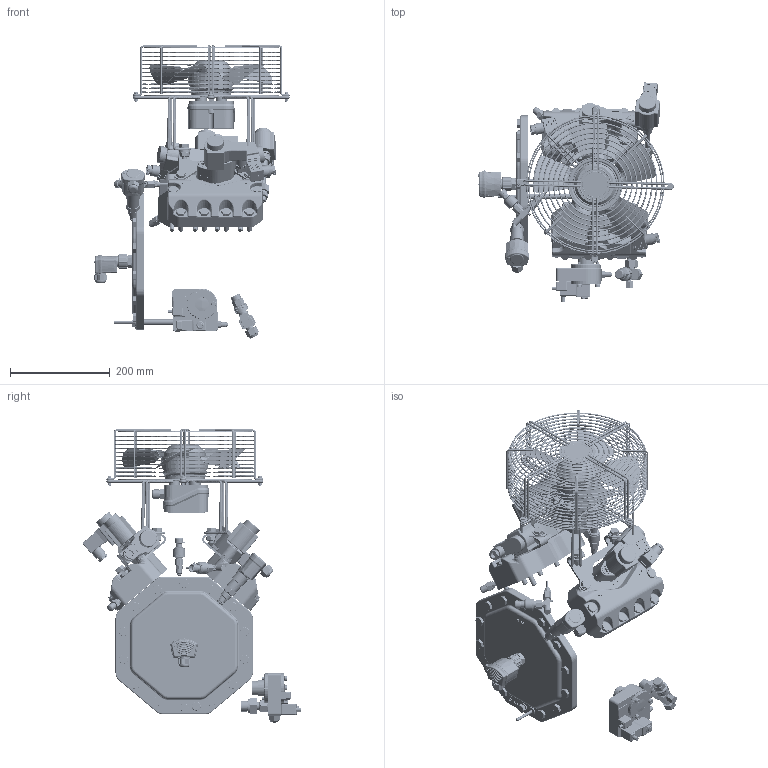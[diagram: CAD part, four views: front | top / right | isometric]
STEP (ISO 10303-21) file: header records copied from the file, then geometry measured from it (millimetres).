
FILE_DESCRIPTION(/* description */ (''),/* implementation_level */ '2;1');
FILE_NAME(/* name */ '4VE-S-4TE-S-4PE-S-4NE-S-OPT.stp',/* time_stamp */ '2023-12-08T15:39:04+01:00',/* author */ (''),/* organization */ (''),/* preprocessor_version */ 'ST-DEVELOPER v19.3',/* originating_system */ 'SIEMENS PLM Software NX2212.3001',/* authorisation */ '');
FILE_SCHEMA (('AUTOMOTIVE_DESIGN { 1 0 10303 214 3 1 1 1 }'));
Products named in the file (14): PRESSURE-TEMPERATURE-SENSORS; CE4S-OPTION-CIC; CYL-HEAD-1XCR2-L-WI; ADDITIONAL-FAN-4FC-TO-4NC; KIT-CIC-COMPLETE; SOLENOID-VALVE-F-CIC; OIL-LEVEL-MONITORING-OLM-IQ-1; OIL-PRESS-CUT-OUT-DELTAP-2; BEARING-COVER-C4-W-PRISM-UNIT; CYL-HEAD-AIR-SU-C4-SOLENOID-VA; CYLIND-HEAD-AIR-CR-C4; CRANKCASE-HEATER-200-460V; SHUT-OFF-VALVE-D10B-3-4-16UN; 4VE-S-4TE-S-4PE-S-4NE-S-OPT
Assembly tree (15 placements, depth 2):
  4VE-S-4TE-S-4PE-S-4NE-S-OPT
    SHUT-OFF-VALVE-D10B-3-4-16UN
    CRANKCASE-HEATER-200-460V
    CYLIND-HEAD-AIR-CR-C4  x2
    CYL-HEAD-AIR-SU-C4-SOLENOID-VA
    BEARING-COVER-C4-W-PRISM-UNIT
    OIL-PRESS-CUT-OUT-DELTAP-2
    OIL-LEVEL-MONITORING-OLM-IQ-1
    SOLENOID-VALVE-F-CIC
    KIT-CIC-COMPLETE
    ADDITIONAL-FAN-4FC-TO-4NC
    CYL-HEAD-1XCR2-L-WI  x2
    CE4S-OPTION-CIC
    PRESSURE-TEMPERATURE-SENSORS
Bounding box: 391.84 x 438.69 x 587.8 mm (x, y, z)
Volume: 9532546.9 mm3; surface area: 1328488.9 mm2
Topology: 25 solids, 63 shells, 10904 faces, 28486 edges, 17592 vertices
Faces by surface type: plane 4452, cylinder 2386, bspline 1831, cone 1116, torus 883, sphere 155, extrusion 81
Full cylindrical faces by diameter (mm): 1.5 x6, 1.75 x2, 2.5 x1, 3 x7, 3.2 x5, 3.5 x4, 4 x14, 5 x11, 5.795 x2, 6 x12, 6.4 x2, 6.6 x7, 7 x7, 7.8 x1, 7.9 x1, 8 x9, 8.5 x1, 8.9 x1, 9 x8, 9.5 x6, 9.76 x12, 10 x16, 10.2 x3, 10.287 x5, 10.29 x3, 10.5 x4, 10.907 x2, 11 x32, 11.1 x2, 11.11 x1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
Entity records: 405182 total; most frequent: CARTESIAN_POINT 167160, ORIENTED_EDGE 44132, DIRECTION 37208, EDGE_CURVE 22066, AXIS2_PLACEMENT_3D 14100, VERTEX_POINT 14057, EDGE_LOOP 10247, VECTOR 9008
